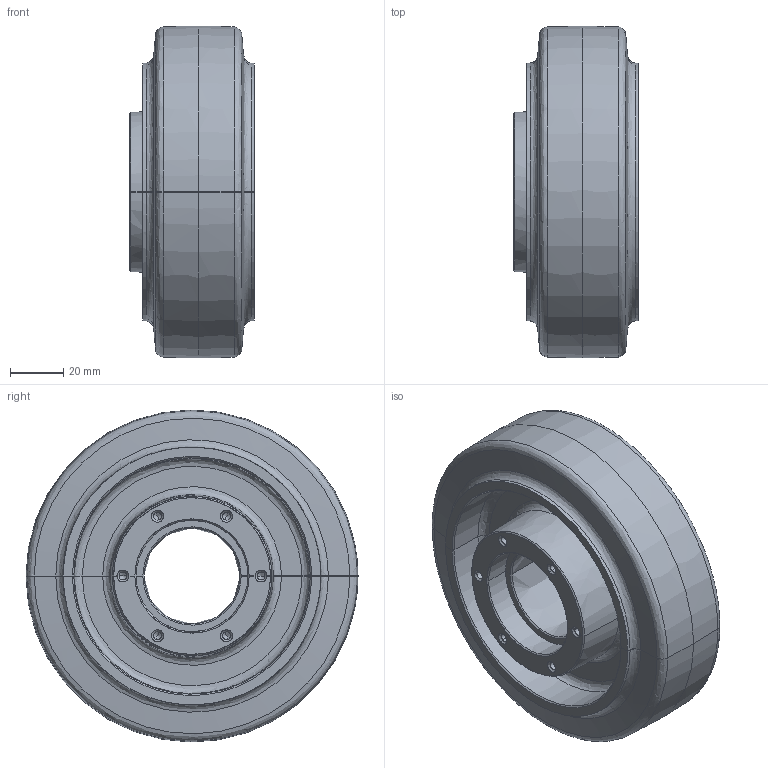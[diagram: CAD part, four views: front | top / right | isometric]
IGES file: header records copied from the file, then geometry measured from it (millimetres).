
Start section: JAMA-IS VERSION  1.0
Global section: file name: C:\CAM-TOOL data\ToolsFile\INOAC車輪\11月\DWR-125S-ALL.igs; native system: CAM-TOOL; preprocessor: C3out Version 11.1.1.50212 (2015/02/12); author: NONE; organization: NONE; date: 221123.174220; units: millimetre
Bounding box: 47 x 125 x 124.99 mm (x, y, z)
Surface area: 80359.2 mm2 (no closed solid volume)
Topology: 0 solids, 0 shells, 112 faces, 882 edges, 1033 vertices
Faces by surface type: bspline 112
